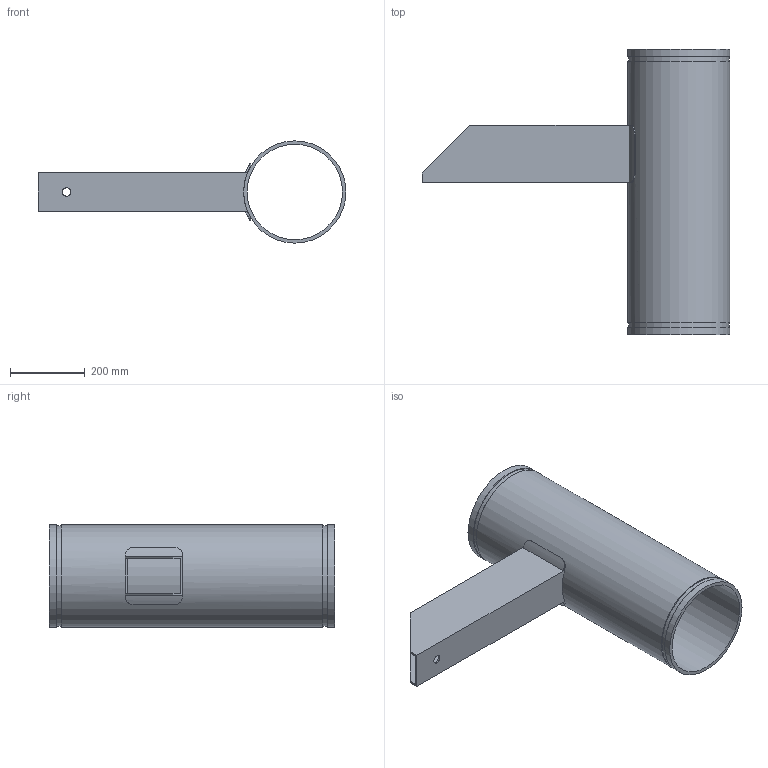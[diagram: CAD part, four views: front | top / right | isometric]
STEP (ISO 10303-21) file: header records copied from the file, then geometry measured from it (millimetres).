
FILE_DESCRIPTION(/* description */ ('VIC SS FLOOR MOUNTED RISER ANCHOR No A40S'),/* implementation_level */ '2;1');
FILE_NAME(/* name */ 'C:\Files for Export\A40 & A40S-STEP-SWX\STEP\Victaulic_SS-OGS_Riser Anchor_No A40S (OGS)\Victaulic_SS-OGS_Riser Anchor_No A40S (OGS)_10 (250).stp',/* time_stamp */ '2024-06-07T07:37:10+02:00',/* author */ ('kkamble'),/* organization */ ('Victaulic'),/* preprocessor_version */ 'ST-DEVELOPER v18.1',/* originating_system */ 'Autodesk Inventor 2020',/* authorisation */ '');
FILE_SCHEMA (('AUTOMOTIVE_DESIGN { 1 0 10303 214 3 1 1 }'));
Length unit declared in the file: inch
Products named in the file (1): A40S-10.0
Bounding box: 822.33 x 762 x 273.05 mm (x, y, z)
Volume: 7141658.9 mm3; surface area: 1772268.3 mm2
Topology: 1 solids, 1 shells, 34 faces, 94 edges, 66 vertices
Faces by surface type: plane 20, cylinder 14
Full cylindrical faces by diameter (mm): 22.225 x1, 254.508 x1, 268.275 x2, 273.05 x3
Entity records: 1319 total; most frequent: CARTESIAN_POINT 331, DIRECTION 192, ORIENTED_EDGE 188, EDGE_CURVE 94, AXIS2_PLACEMENT_3D 71, VERTEX_POINT 66, LINE 50, VECTOR 50
